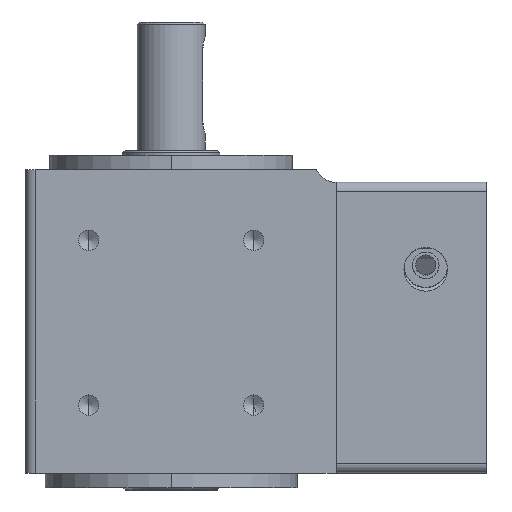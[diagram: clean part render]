
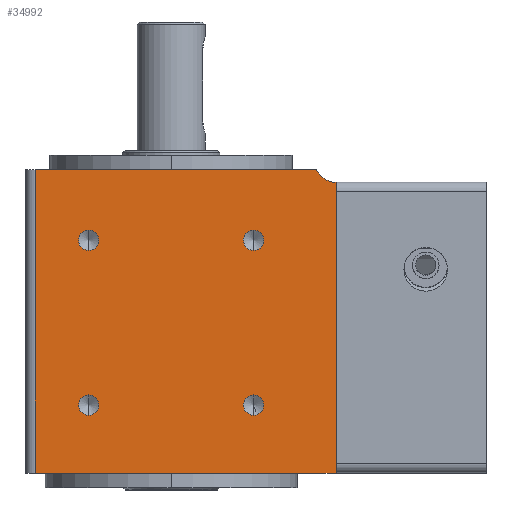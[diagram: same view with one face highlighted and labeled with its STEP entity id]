
A CAD part, left-side view. The second image highlights one B-rep face of the part: STEP entity #34992.
In plain terms, the highlighted planar face has unit normal (-1, 0, 0).
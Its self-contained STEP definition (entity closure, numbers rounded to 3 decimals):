
#6 = FACE_BOUND ( 'NONE', #30642, .T. ) ;
#210 = LINE ( 'NONE', #49055, #21747 ) ;
#925 = ORIENTED_EDGE ( 'NONE', *, *, #22758, .F. ) ;
#928 = EDGE_LOOP ( 'NONE', ( #32654, #22951 ) ) ;
#1095 = EDGE_CURVE ( 'NONE', #20269, #12500, #9693, .T. ) ;
#1165 = DIRECTION ( 'NONE',  ( 0., 0., 1. ) ) ;
#1357 = DIRECTION ( 'NONE',  ( 0., 0., 1. ) ) ;
#1417 = DIRECTION ( 'NONE',  ( 1., 0., 0. ) ) ;
#1468 = CARTESIAN_POINT ( 'NONE',  ( -30., -32., 67.45 ) ) ;
#2616 = ORIENTED_EDGE ( 'NONE', *, *, #12023, .F. ) ;
#2826 = EDGE_CURVE ( 'NONE', #18579, #27730, #15226, .T. ) ;
#3375 = AXIS2_PLACEMENT_3D ( 'NONE', #39319, #15326, #43303 ) ;
#4738 = EDGE_CURVE ( 'NONE', #36627, #39629, #21571, .T. ) ;
#5456 = VERTEX_POINT ( 'NONE', #15366 ) ;
#5778 = ORIENTED_EDGE ( 'NONE', *, *, #4738, .F. ) ;
#6188 = CARTESIAN_POINT ( 'NONE',  ( -30., 30., 65.5 ) ) ;
#6578 = DIRECTION ( 'NONE',  ( 1., 0., 0. ) ) ;
#7080 = DIRECTION ( 'NONE',  ( -1., 0., 0. ) ) ;
#7294 = ORIENTED_EDGE ( 'NONE', *, *, #25205, .F. ) ;
#7397 = ORIENTED_EDGE ( 'NONE', *, *, #37822, .T. ) ;
#8749 = AXIS2_PLACEMENT_3D ( 'NONE', #33063, #8983, #37036 ) ;
#8983 = DIRECTION ( 'NONE',  ( -1., 0., 0. ) ) ;
#9175 = EDGE_LOOP ( 'NONE', ( #925, #7294 ) ) ;
#9693 = CIRCLE ( 'NONE', #50194, 4.5 ) ;
#10088 = CARTESIAN_POINT ( 'NONE',  ( -30., 19., 19.1 ) ) ;
#12023 = EDGE_CURVE ( 'NONE', #47106, #12500, #21180, .T. ) ;
#12500 = VERTEX_POINT ( 'NONE', #24986 ) ;
#14288 = CARTESIAN_POINT ( 'NONE',  ( -30., -15., 53.1 ) ) ;
#14754 = DIRECTION ( 'NONE',  ( -1., 0., 0. ) ) ;
#15208 = CARTESIAN_POINT ( 'NONE',  ( -30., -32., 62.95 ) ) ;
#15226 = CIRCLE ( 'NONE', #25627, 2.1 ) ;
#15326 = DIRECTION ( 'NONE',  ( -1., 0., 0. ) ) ;
#15366 = CARTESIAN_POINT ( 'NONE',  ( -30., 19., 53.1 ) ) ;
#15447 = CIRCLE ( 'NONE', #33224, 2.1 ) ;
#15499 = EDGE_CURVE ( 'NONE', #39629, #36627, #24121, .T. ) ;
#17110 = DIRECTION ( 'NONE',  ( 0., 0., 1. ) ) ;
#18579 = VERTEX_POINT ( 'NONE', #10088 ) ;
#19098 = VECTOR ( 'NONE', #35520, 1000. ) ;
#20269 = VERTEX_POINT ( 'NONE', #15208 ) ;
#20540 = EDGE_LOOP ( 'NONE', ( #41799, #2616, #39432, #33904, #7397 ) ) ;
#20625 = CIRCLE ( 'NONE', #3375, 2.1 ) ;
#20779 = CARTESIAN_POINT ( 'NONE',  ( -30., 19., 14.9 ) ) ;
#21162 = CARTESIAN_POINT ( 'NONE',  ( -30., -15., 17. ) ) ;
#21180 = LINE ( 'NONE', #37677, #39856 ) ;
#21542 = FACE_OUTER_BOUND ( 'NONE', #20540, .T. ) ;
#21571 = CIRCLE ( 'NONE', #25240, 2.1 ) ;
#21742 = DIRECTION ( 'NONE',  ( 0., 0., 1. ) ) ;
#21747 = VECTOR ( 'NONE', #17110, 1000. ) ;
#21778 = DIRECTION ( 'NONE',  ( -1., 0., 0. ) ) ;
#21834 = CARTESIAN_POINT ( 'NONE',  ( -30., -15., 51. ) ) ;
#22142 = AXIS2_PLACEMENT_3D ( 'NONE', #38752, #14754, #42732 ) ;
#22277 = VERTEX_POINT ( 'NONE', #40889 ) ;
#22758 = EDGE_CURVE ( 'NONE', #5456, #47605, #20625, .T. ) ;
#22926 = VERTEX_POINT ( 'NONE', #24373 ) ;
#22951 = ORIENTED_EDGE ( 'NONE', *, *, #43400, .F. ) ;
#23164 = CARTESIAN_POINT ( 'NONE',  ( -30., 0., 3. ) ) ;
#24121 = CIRCLE ( 'NONE', #22142, 2.1 ) ;
#24373 = CARTESIAN_POINT ( 'NONE',  ( -30., -15., 19.1 ) ) ;
#24673 = VERTEX_POINT ( 'NONE', #27300 ) ;
#24986 = CARTESIAN_POINT ( 'NONE',  ( -30., -27.944, 65.5 ) ) ;
#25205 = EDGE_CURVE ( 'NONE', #47605, #5456, #45426, .T. ) ;
#25226 = DIRECTION ( 'NONE',  ( 0., 0., 1. ) ) ;
#25240 = AXIS2_PLACEMENT_3D ( 'NONE', #21834, #21778, #21742 ) ;
#25423 = DIRECTION ( 'NONE',  ( -1., 0., 0. ) ) ;
#25627 = AXIS2_PLACEMENT_3D ( 'NONE', #29784, #29702, #29663 ) ;
#27300 = CARTESIAN_POINT ( 'NONE',  ( -30., -15., 14.9 ) ) ;
#27730 = VERTEX_POINT ( 'NONE', #20779 ) ;
#29110 = ORIENTED_EDGE ( 'NONE', *, *, #15499, .F. ) ;
#29606 = EDGE_CURVE ( 'NONE', #24673, #22926, #15447, .T. ) ;
#29663 = DIRECTION ( 'NONE',  ( 0., 0., 1. ) ) ;
#29702 = DIRECTION ( 'NONE',  ( -1., 0., 0. ) ) ;
#29784 = CARTESIAN_POINT ( 'NONE',  ( -30., 19., 17. ) ) ;
#30632 = ORIENTED_EDGE ( 'NONE', *, *, #49300, .F. ) ;
#30642 = EDGE_LOOP ( 'NONE', ( #30632, #51119 ) ) ;
#30970 = FACE_BOUND ( 'NONE', #51635, .T. ) ;
#31222 = CARTESIAN_POINT ( 'NONE',  ( -30., 19., 51. ) ) ;
#31404 = LINE ( 'NONE', #36088, #51236 ) ;
#32009 = EDGE_CURVE ( 'NONE', #22277, #47106, #210, .T. ) ;
#32380 = AXIS2_PLACEMENT_3D ( 'NONE', #38519, #6578, #34710 ) ;
#32654 = ORIENTED_EDGE ( 'NONE', *, *, #2826, .F. ) ;
#33063 = CARTESIAN_POINT ( 'NONE',  ( -30., 19., 17. ) ) ;
#33224 = AXIS2_PLACEMENT_3D ( 'NONE', #21162, #49032, #25226 ) ;
#33653 = EDGE_CURVE ( 'NONE', #51453, #22277, #49658, .T. ) ;
#33904 = ORIENTED_EDGE ( 'NONE', *, *, #33653, .F. ) ;
#34135 = AXIS2_PLACEMENT_3D ( 'NONE', #31222, #7080, #35199 ) ;
#34237 = CIRCLE ( 'NONE', #50935, 2.1 ) ;
#34710 = DIRECTION ( 'NONE',  ( 0., 0., -1. ) ) ;
#34992 = ADVANCED_FACE ( 'NONE', ( #21542, #6, #42716, #41480, #30970 ), #50497, .F. ) ;
#35199 = DIRECTION ( 'NONE',  ( 0., 0., 1. ) ) ;
#35520 = DIRECTION ( 'NONE',  ( 0., 1., 0. ) ) ;
#36088 = CARTESIAN_POINT ( 'NONE',  ( -30., -32., 68.5 ) ) ;
#36627 = VERTEX_POINT ( 'NONE', #14288 ) ;
#37036 = DIRECTION ( 'NONE',  ( 0., 0., 1. ) ) ;
#37387 = DIRECTION ( 'NONE',  ( 0., -1., 0. ) ) ;
#37677 = CARTESIAN_POINT ( 'NONE',  ( -30., 0., 65.5 ) ) ;
#37822 = EDGE_CURVE ( 'NONE', #51453, #20269, #31404, .T. ) ;
#38519 = CARTESIAN_POINT ( 'NONE',  ( -30., -32., 68.5 ) ) ;
#38752 = CARTESIAN_POINT ( 'NONE',  ( -30., -15., 51. ) ) ;
#39319 = CARTESIAN_POINT ( 'NONE',  ( -30., 19., 51. ) ) ;
#39432 = ORIENTED_EDGE ( 'NONE', *, *, #32009, .F. ) ;
#39629 = VERTEX_POINT ( 'NONE', #44463 ) ;
#39856 = VECTOR ( 'NONE', #37387, 1000. ) ;
#40070 = DIRECTION ( 'NONE',  ( 0., 0., 1. ) ) ;
#40889 = CARTESIAN_POINT ( 'NONE',  ( -30., 30., 3. ) ) ;
#41480 = FACE_BOUND ( 'NONE', #9175, .T. ) ;
#41799 = ORIENTED_EDGE ( 'NONE', *, *, #1095, .T. ) ;
#42716 = FACE_BOUND ( 'NONE', #928, .T. ) ;
#42732 = DIRECTION ( 'NONE',  ( 0., 0., 1. ) ) ;
#43303 = DIRECTION ( 'NONE',  ( 0., 0., 1. ) ) ;
#43400 = EDGE_CURVE ( 'NONE', #27730, #18579, #50133, .T. ) ;
#44463 = CARTESIAN_POINT ( 'NONE',  ( -30., -15., 48.9 ) ) ;
#44829 = CARTESIAN_POINT ( 'NONE',  ( -30., -32., 3. ) ) ;
#45426 = CIRCLE ( 'NONE', #34135, 2.1 ) ;
#47106 = VERTEX_POINT ( 'NONE', #6188 ) ;
#47308 = CARTESIAN_POINT ( 'NONE',  ( -30., 19., 48.9 ) ) ;
#47605 = VERTEX_POINT ( 'NONE', #47308 ) ;
#49032 = DIRECTION ( 'NONE',  ( -1., 0., 0. ) ) ;
#49055 = CARTESIAN_POINT ( 'NONE',  ( -30., 30., 68.5 ) ) ;
#49222 = CARTESIAN_POINT ( 'NONE',  ( -30., -15., 17. ) ) ;
#49300 = EDGE_CURVE ( 'NONE', #22926, #24673, #34237, .T. ) ;
#49658 = LINE ( 'NONE', #23164, #19098 ) ;
#50133 = CIRCLE ( 'NONE', #8749, 2.1 ) ;
#50194 = AXIS2_PLACEMENT_3D ( 'NONE', #1468, #1417, #1357 ) ;
#50497 = PLANE ( 'NONE',  #32380 ) ;
#50935 = AXIS2_PLACEMENT_3D ( 'NONE', #49222, #25423, #1165 ) ;
#51119 = ORIENTED_EDGE ( 'NONE', *, *, #29606, .F. ) ;
#51236 = VECTOR ( 'NONE', #40070, 1000. ) ;
#51453 = VERTEX_POINT ( 'NONE', #44829 ) ;
#51635 = EDGE_LOOP ( 'NONE', ( #5778, #29110 ) ) ;
